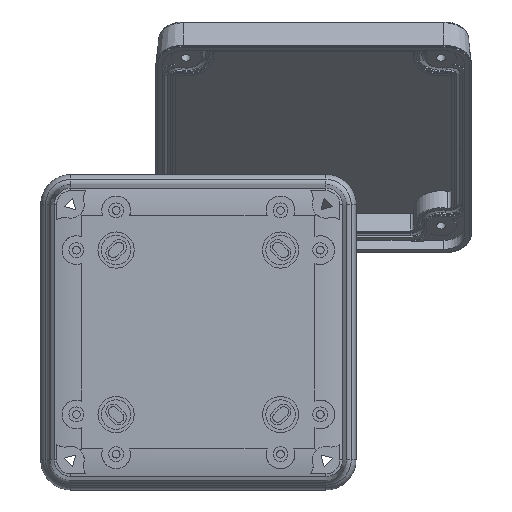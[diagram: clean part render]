
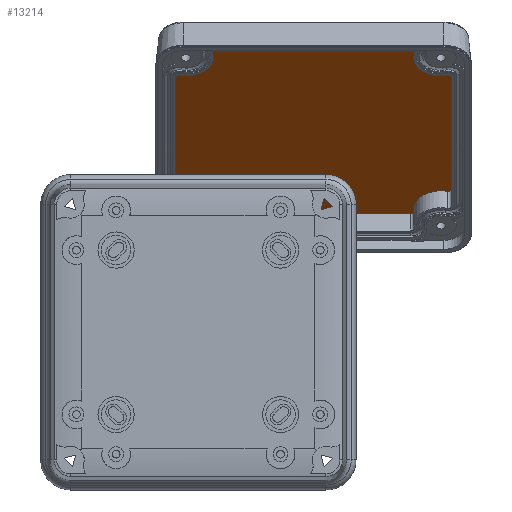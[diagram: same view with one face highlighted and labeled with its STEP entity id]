
A CAD part, front view. The second image highlights one B-rep face of the part: STEP entity #13214.
In plain terms, the highlighted planar face has unit normal (0, -0.658, -0.753) as drawn and (0, -1, 0) by its records, which use the part's own axes.
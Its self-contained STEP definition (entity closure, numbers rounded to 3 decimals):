
#872=PLANE('',#14720);
#1638=FACE_OUTER_BOUND('',#2516,.T.);
#2516=EDGE_LOOP('',(#12251,#12252,#12253,#12254,#12255,#12256,#12257,#12258,
#12259,#12260,#12261,#12262,#12263,#12264,#12265,#12266));
#3486=LINE('',#24274,#4506);
#3493=LINE('',#24300,#4513);
#3499=LINE('',#24324,#4519);
#3505=LINE('',#24348,#4525);
#4506=VECTOR('',#18337,10.);
#4513=VECTOR('',#18364,10.);
#4519=VECTOR('',#18390,10.);
#4525=VECTOR('',#18416,10.);
#5196=CIRCLE('',#14627,1.2);
#5198=CIRCLE('',#14630,10.);
#5200=CIRCLE('',#14633,1.2);
#5202=CIRCLE('',#14637,1.2);
#5204=CIRCLE('',#14640,10.);
#5206=CIRCLE('',#14643,1.2);
#5208=CIRCLE('',#14647,1.2);
#5210=CIRCLE('',#14650,10.);
#5212=CIRCLE('',#14653,1.2);
#5214=CIRCLE('',#14657,1.2);
#5216=CIRCLE('',#14660,10.);
#5218=CIRCLE('',#14663,1.2);
#6568=VERTEX_POINT('',#24272);
#6569=VERTEX_POINT('',#24273);
#6572=VERTEX_POINT('',#24281);
#6574=VERTEX_POINT('',#24287);
#6576=VERTEX_POINT('',#24293);
#6578=VERTEX_POINT('',#24299);
#6580=VERTEX_POINT('',#24305);
#6582=VERTEX_POINT('',#24311);
#6584=VERTEX_POINT('',#24317);
#6586=VERTEX_POINT('',#24323);
#6588=VERTEX_POINT('',#24329);
#6590=VERTEX_POINT('',#24335);
#6592=VERTEX_POINT('',#24341);
#6594=VERTEX_POINT('',#24347);
#6596=VERTEX_POINT('',#24353);
#6598=VERTEX_POINT('',#24359);
#8416=EDGE_CURVE('',#6568,#6569,#3486,.T.);
#8420=EDGE_CURVE('',#6569,#6572,#5196,.T.);
#8423=EDGE_CURVE('',#6572,#6574,#5198,.T.);
#8426=EDGE_CURVE('',#6574,#6576,#5200,.T.);
#8429=EDGE_CURVE('',#6576,#6578,#3493,.T.);
#8432=EDGE_CURVE('',#6578,#6580,#5202,.T.);
#8435=EDGE_CURVE('',#6580,#6582,#5204,.T.);
#8438=EDGE_CURVE('',#6582,#6584,#5206,.T.);
#8441=EDGE_CURVE('',#6584,#6586,#3499,.T.);
#8444=EDGE_CURVE('',#6586,#6588,#5208,.T.);
#8447=EDGE_CURVE('',#6588,#6590,#5210,.T.);
#8450=EDGE_CURVE('',#6590,#6592,#5212,.T.);
#8453=EDGE_CURVE('',#6592,#6594,#3505,.T.);
#8456=EDGE_CURVE('',#6594,#6596,#5214,.T.);
#8459=EDGE_CURVE('',#6596,#6598,#5216,.T.);
#8462=EDGE_CURVE('',#6598,#6568,#5218,.T.);
#12251=ORIENTED_EDGE('',*,*,#8416,.T.);
#12252=ORIENTED_EDGE('',*,*,#8420,.T.);
#12253=ORIENTED_EDGE('',*,*,#8423,.T.);
#12254=ORIENTED_EDGE('',*,*,#8426,.T.);
#12255=ORIENTED_EDGE('',*,*,#8429,.T.);
#12256=ORIENTED_EDGE('',*,*,#8432,.T.);
#12257=ORIENTED_EDGE('',*,*,#8435,.T.);
#12258=ORIENTED_EDGE('',*,*,#8438,.T.);
#12259=ORIENTED_EDGE('',*,*,#8441,.T.);
#12260=ORIENTED_EDGE('',*,*,#8444,.T.);
#12261=ORIENTED_EDGE('',*,*,#8447,.T.);
#12262=ORIENTED_EDGE('',*,*,#8450,.T.);
#12263=ORIENTED_EDGE('',*,*,#8453,.T.);
#12264=ORIENTED_EDGE('',*,*,#8456,.T.);
#12265=ORIENTED_EDGE('',*,*,#8459,.T.);
#12266=ORIENTED_EDGE('',*,*,#8462,.T.);
#13214=ADVANCED_FACE('',(#1638),#872,.T.);
#14627=AXIS2_PLACEMENT_3D('',#24282,#18343,#18344);
#14630=AXIS2_PLACEMENT_3D('',#24288,#18350,#18351);
#14633=AXIS2_PLACEMENT_3D('',#24294,#18357,#18358);
#14637=AXIS2_PLACEMENT_3D('',#24306,#18369,#18370);
#14640=AXIS2_PLACEMENT_3D('',#24312,#18376,#18377);
#14643=AXIS2_PLACEMENT_3D('',#24318,#18383,#18384);
#14647=AXIS2_PLACEMENT_3D('',#24330,#18395,#18396);
#14650=AXIS2_PLACEMENT_3D('',#24336,#18402,#18403);
#14653=AXIS2_PLACEMENT_3D('',#24342,#18409,#18410);
#14657=AXIS2_PLACEMENT_3D('',#24354,#18421,#18422);
#14660=AXIS2_PLACEMENT_3D('',#24360,#18428,#18429);
#14663=AXIS2_PLACEMENT_3D('',#24365,#18435,#18436);
#14720=AXIS2_PLACEMENT_3D('',#24482,#18578,#18579);
#18337=DIRECTION('',(0.,0.,-1.));
#18343=DIRECTION('center_axis',(0.,-1.,0.));
#18344=DIRECTION('ref_axis',(0.238,0.,-0.971));
#18350=DIRECTION('center_axis',(0.,1.,0.));
#18351=DIRECTION('ref_axis',(0.989,0.,-0.149));
#18357=DIRECTION('center_axis',(0.,-1.,0.));
#18358=DIRECTION('ref_axis',(0.,0.,
-1.));
#18364=DIRECTION('',(1.,0.,0.));
#18369=DIRECTION('center_axis',(0.,-1.,0.));
#18370=DIRECTION('ref_axis',(0.989,0.,0.147));
#18376=DIRECTION('center_axis',(0.,1.,0.));
#18377=DIRECTION('ref_axis',(0.237,0.,0.972));
#18383=DIRECTION('center_axis',(0.,-1.,0.));
#18384=DIRECTION('ref_axis',(1.,0.,0.));
#18390=DIRECTION('',(0.,0.,1.));
#18395=DIRECTION('center_axis',(0.,-1.,0.));
#18396=DIRECTION('ref_axis',(-0.237,0.,0.972));
#18402=DIRECTION('center_axis',(0.,1.,0.));
#18403=DIRECTION('ref_axis',(-0.972,0.,0.237));
#18409=DIRECTION('center_axis',(0.,-1.,0.));
#18410=DIRECTION('ref_axis',(0.,0.,1.));
#18416=DIRECTION('',(-1.,0.,0.));
#18421=DIRECTION('center_axis',(0.,-1.,0.));
#18422=DIRECTION('ref_axis',(-0.971,0.,-0.238));
#18428=DIRECTION('center_axis',(0.,1.,0.));
#18429=DIRECTION('ref_axis',(-0.238,0.,-0.971));
#18435=DIRECTION('center_axis',(0.,-1.,0.));
#18436=DIRECTION('ref_axis',(-1.,0.,0.));
#18578=DIRECTION('center_axis',(0.,-1.,0.));
#18579=DIRECTION('ref_axis',(0.,0.,-1.));
#24272=CARTESIAN_POINT('',(-50.35,11.7,35.608));
#24273=CARTESIAN_POINT('',(-50.35,11.7,-35.608));
#24274=CARTESIAN_POINT('',(-50.35,11.7,35.608));
#24281=CARTESIAN_POINT('',(-48.865,11.7,-36.773));
#24282=CARTESIAN_POINT('Origin',(-49.15,11.7,-35.608));
#24287=CARTESIAN_POINT('',(-36.597,11.7,-47.972));
#24288=CARTESIAN_POINT('Origin',(-46.487,11.7,-46.487));
#24293=CARTESIAN_POINT('',(-35.411,11.7,-49.35));
#24294=CARTESIAN_POINT('Origin',(-35.411,11.7,-48.15));
#24299=CARTESIAN_POINT('',(35.422,11.7,-49.35));
#24300=CARTESIAN_POINT('',(-35.411,11.7,-49.35));
#24305=CARTESIAN_POINT('',(36.609,11.7,-47.973));
#24306=CARTESIAN_POINT('Origin',(35.422,11.7,-48.15));
#24311=CARTESIAN_POINT('',(48.866,11.7,-36.784));
#24312=CARTESIAN_POINT('Origin',(46.5,11.7,-46.5));
#24317=CARTESIAN_POINT('',(50.35,11.7,-35.618));
#24318=CARTESIAN_POINT('Origin',(49.15,11.7,-35.618));
#24323=CARTESIAN_POINT('',(50.35,11.7,35.618));
#24324=CARTESIAN_POINT('',(50.35,11.7,-35.618));
#24329=CARTESIAN_POINT('',(48.866,11.7,36.784));
#24330=CARTESIAN_POINT('Origin',(49.15,11.7,35.618));
#24335=CARTESIAN_POINT('',(36.784,11.7,48.866));
#24336=CARTESIAN_POINT('Origin',(46.5,11.7,46.5));
#24341=CARTESIAN_POINT('',(35.618,11.7,50.35));
#24342=CARTESIAN_POINT('Origin',(35.618,11.7,49.15));
#24347=CARTESIAN_POINT('',(-35.608,11.7,50.35));
#24348=CARTESIAN_POINT('',(35.618,11.7,50.35));
#24353=CARTESIAN_POINT('',(-36.773,11.7,48.865));
#24354=CARTESIAN_POINT('Origin',(-35.608,11.7,49.15));
#24359=CARTESIAN_POINT('',(-48.865,11.7,36.773));
#24360=CARTESIAN_POINT('Origin',(-46.487,11.7,46.487));
#24365=CARTESIAN_POINT('Origin',(-49.15,11.7,35.608));
#24482=CARTESIAN_POINT('Origin',(-50.36,11.7,0.5));
